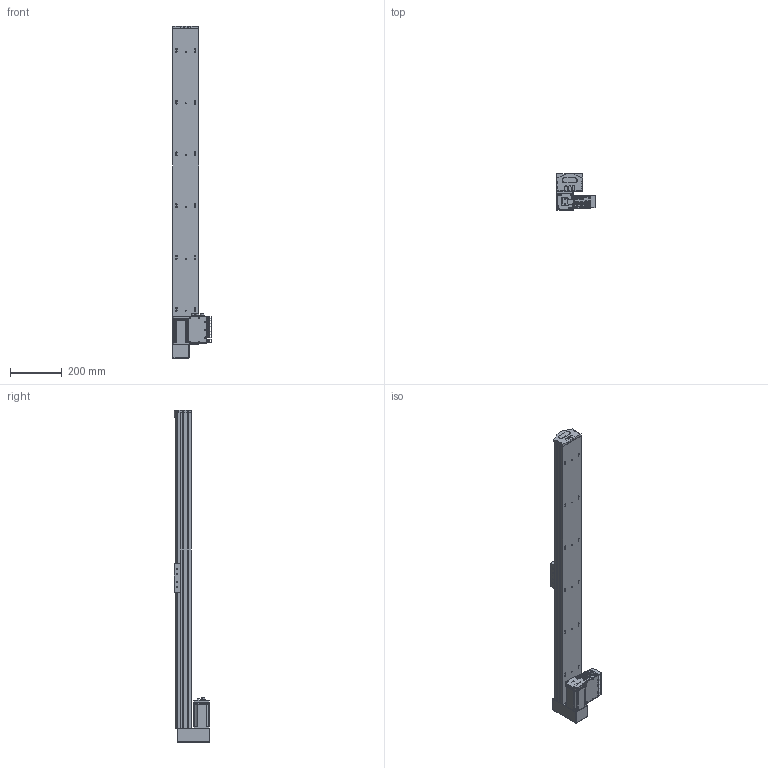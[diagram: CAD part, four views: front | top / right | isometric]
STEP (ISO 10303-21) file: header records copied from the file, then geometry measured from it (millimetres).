
FILE_DESCRIPTION (( 'STEP AP203' ), '1' );
FILE_NAME ('S 10 TSH BM S1000.STEP', '2012-09-07T12:55:06', ( 'Conseil Régional Haute-Normandie' ), ( 'Conseil Régional Haute-Normandie' ), 'SwSTEP 2.0', 'SolidWorks 2010', '' );
FILE_SCHEMA (( 'CONFIG_CONTROL_DESIGN' ));
Length unit declared in the file: millimetre
Products named in the file (25): T_X2_00F4_X0_le contre le moteur_5; Assem1_7; Couvercle_3; T_X2_00F4_X0_le fond_3; T_X2_00F4_X0_le Arri_X2_00E8_X0_re_5; Colonnette ronde_3; T_X2_00F4_X0_le lat_X2_00E9_X0_rale_5; S 10 TSH BM S1000; piece_plastique remplieTSH_Default; axe1220_Default; embout_modifié; remplir_Default; Pièce2_Default; palette tbn2; BU41 Carte Alimentation P05_3; Colonnette_3; BU45 Carte d''axe A11_5; Moteur 60BLDC90A_3; Connecteur rond D10 3cts_5; Connecteur rond D12 4cts_5; Sub D 9cts 90_X2_00B_X0__3; Radiateur profil_X2_00E9_X0_ 100x25_3; Vis TF 3 torkx_1_1; Copie de renvoie LH2_Default; Vis TF 3 torkx
Assembly tree (55 placements, depth 3):
  S 10 TSH BM S1000
    palette tbn2
    piece_plastique remplieTSH_Default
      remplir_Default  x3
      Pièce2_Default
      embout_modifié
    Vis TF 3 torkx  x7
    axe1220_Default
    Assem1_7
      BU45 Carte d''axe A11_5
      T_X2_00F4_X0_le fond_3
      Sub D 9cts 90_X2_00B_X0__3
      Vis TF 3 torkx_1_1  x21
      Colonnette_3  x2
      Connecteur rond D10 3cts_5  x2
      T_X2_00F4_X0_le lat_X2_00E9_X0_rale_5  x2
      Connecteur rond D12 4cts_5
      BU41 Carte Alimentation P05_3
      Radiateur profil_X2_00E9_X0_ 100x25_3
      Couvercle_3
      Colonnette ronde_3
      T_X2_00F4_X0_le Arri_X2_00E8_X0_re_5
      Moteur 60BLDC90A_3
      T_X2_00F4_X0_le contre le moteur_5
    Copie de renvoie LH2_Default
Bounding box: 149.38 x 138.75 x 1282 mm (x, y, z)
Volume: 7027026.6 mm3; surface area: 885922.2 mm2
Topology: 53 solids, 53 shells, 2006 faces, 5098 edges, 3318 vertices
Faces by surface type: plane 932, cylinder 903, cone 164, sphere 4, torus 3
Entity records: 39753 total; most frequent: CARTESIAN_POINT 6654, DIRECTION 6517, ORIENTED_EDGE 5888, EDGE_CURVE 2944, AXIS2_PLACEMENT_3D 2406, VERTEX_POINT 1930, VECTOR 1705, LINE 1705
